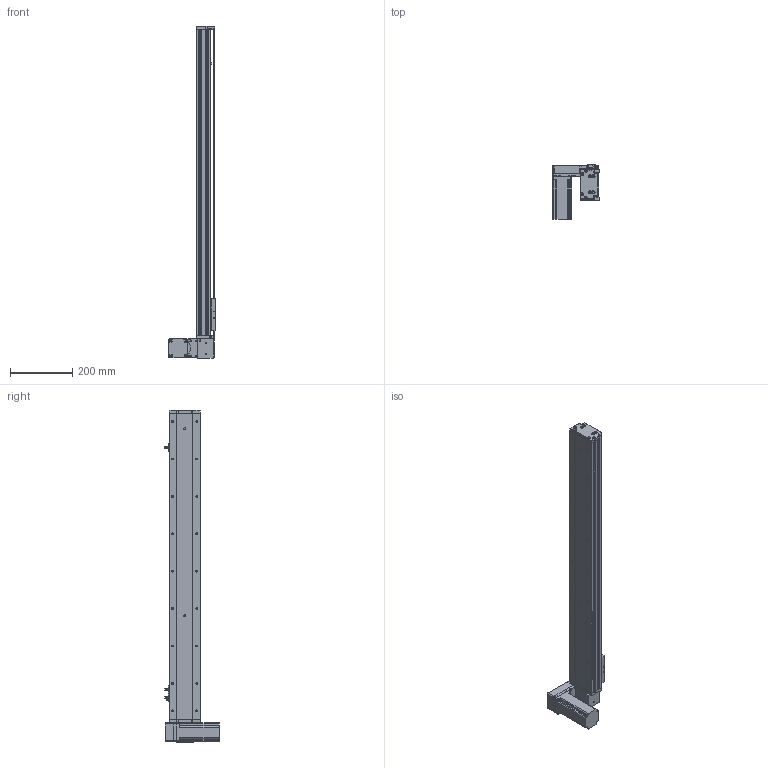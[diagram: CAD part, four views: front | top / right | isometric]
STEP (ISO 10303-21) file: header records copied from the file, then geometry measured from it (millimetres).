
FILE_DESCRIPTION (( 'STEP AP214' ), '1' );
FILE_NAME ('KSD100B-S800-MLD-CM.STEP', '2019-08-31T06:56:38', ( '微软用户' ), ( '微软中国' ), 'SwSTEP 2.0', 'SolidWorks 2014', '' );
FILE_SCHEMA (( 'AUTOMOTIVE_DESIGN' ));
Length unit declared in the file: millimetre
Products named in the file (12): 悵誘欶奻狟殏; 100宽马达安装板连板上下折丝杆同步带; 台达ECMA－C20604AS伺服电机; U倰嫖萇EEㄜSX672; 覜茼え100遵圉猾敕; 100宽防尘板800行程-同步带; 100宽马达安装板同步带左; 100宽同步带安装板半封闭; 100宽马达安装板同步带; 100遵傷啣肮祭湍; 100宽底板半封闭同步带800行程; KSD100B-S800-MLD-CM
Assembly tree (13 placements, depth 2):
  KSD100B-S800-MLD-CM
    100宽底板半封闭同步带800行程
    100遵傷啣肮祭湍
    100宽马达安装板同步带
    100宽同步带安装板半封闭
    100宽马达安装板同步带左
    100宽防尘板800行程-同步带
    覜茼え100遵圉猾敕
    U倰嫖萇EEㄜSX672  x3
    台达ECMA－C20604AS伺服电机
    100宽马达安装板连板上下折丝杆同步带
    悵誘欶奻狟殏
Bounding box: 148 x 174.7 x 1065 mm (x, y, z)
Volume: 2535454.9 mm3; surface area: 830684.4 mm2
Topology: 14 solids, 14 shells, 1427 faces, 4010 edges, 2557 vertices
Faces by surface type: cylinder 713, plane 587, cone 127
Entity records: 50423 total; most frequent: CARTESIAN_POINT 9824, DIRECTION 6942, ORIENTED_EDGE 6672, EDGE_CURVE 3336, AXIS2_PLACEMENT_3D 2533, VERTEX_POINT 2181, LINE 1876, VECTOR 1876
